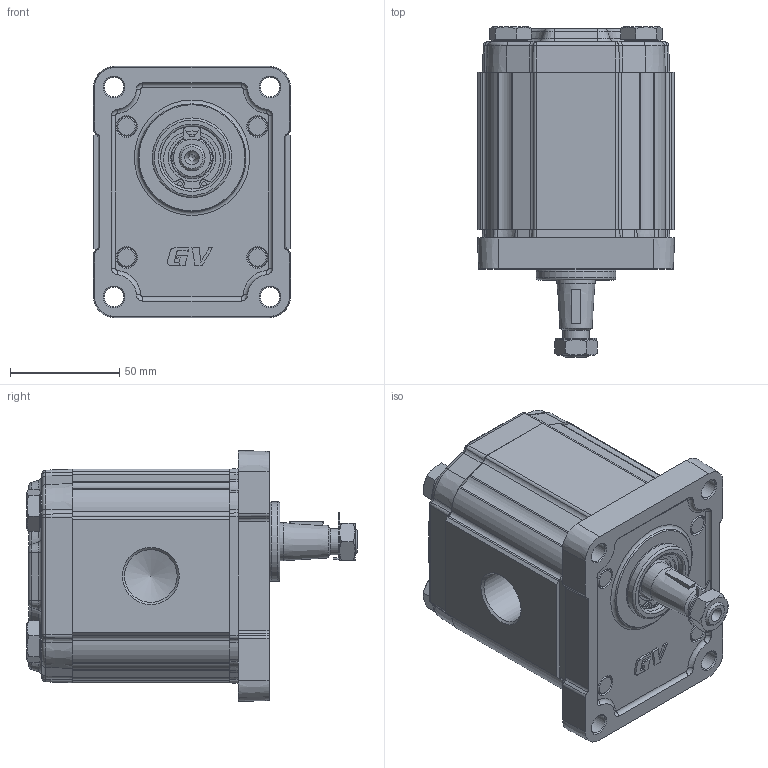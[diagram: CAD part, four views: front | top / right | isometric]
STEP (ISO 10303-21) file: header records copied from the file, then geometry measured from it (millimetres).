
FILE_DESCRIPTION(/* description */ ('Unknown'),/* implementation_level */ '2;1');
FILE_NAME(/* name */ 'G2P5302ECBA',/* time_stamp */ '2026-06-03T17:54:36+02:00',/* author */ ('Unknown'),/* organization */ ('Unknown'),/* preprocessor_version */ 'ST-DEVELOPER v16.7',/* originating_system */ 'Solid Edge',/* authorisation */ 'Unknown');
FILE_SCHEMA (('AUTOMOTIVE_DESIGN {1 0 10303 214 3 1 1}'));
Length unit declared in the file: millimetre
Products named in the file (5): G2P5302ECBA; G2P02; 2E; G2CBH72; GP201-A
Assembly tree (4 placements, depth 2):
  G2P5302ECBA
    G2P02
    2E
    G2CBH72
    GP201-A
Bounding box: 90.29 x 151.55 x 115.1 mm (x, y, z)
Volume: 852217 mm3; surface area: 105073.3 mm2
Topology: 4 solids, 5 shells, 948 faces, 3239 edges, 2039 vertices
Faces by surface type: cylinder 375, plane 340, cone 120, torus 57, bspline 56
Full cylindrical faces by diameter (mm): 2 x2, 4 x2, 9 x4, 9.9 x4, 10 x4, 10.5 x4, 12 x2, 12.5 x1, 15 x4, 15.8 x4, 16 x4, 17.42 x1, 17.48 x2, 18 x4, 18.724 x1, 19 x2, 20.595 x1, 21.741 x1, 24.117 x1, 25 x1, 25.834 x1, 28.56 x1, 28.57 x1, 28.8 x1, 30.5 x1, 36.5 x1
Entity records: 47381 total; most frequent: CARTESIAN_POINT 13058, ORIENTED_EDGE 6174, DIRECTION 5487, EDGE_CURVE 3087, AXIS2_PLACEMENT_3D 2089, VERTEX_POINT 2004, LINE 1309, VECTOR 1309
